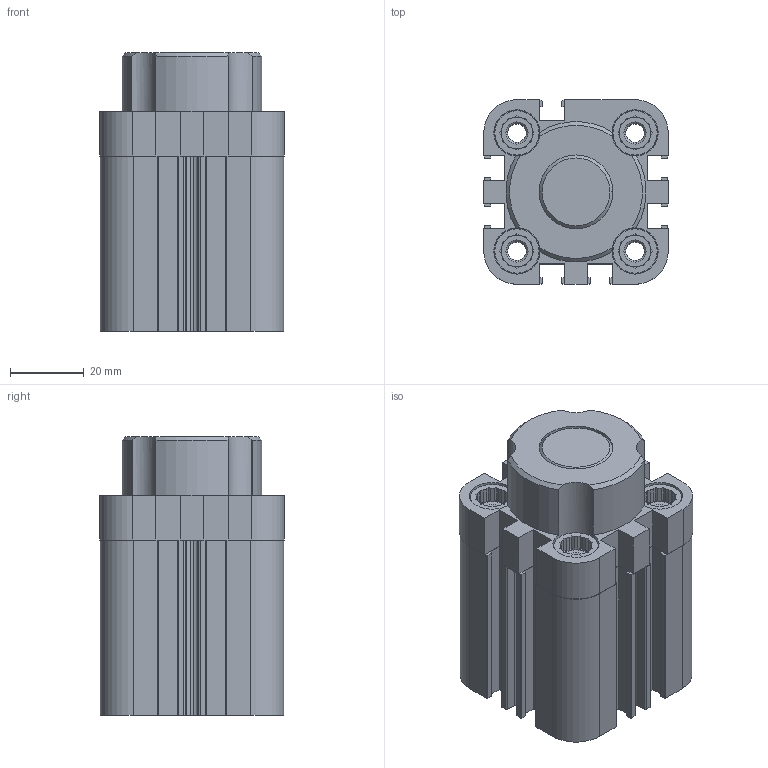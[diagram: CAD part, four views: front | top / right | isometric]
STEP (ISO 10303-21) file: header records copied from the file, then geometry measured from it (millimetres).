
FILE_DESCRIPTION((''),'2;1');
FILE_NAME('R452000681_ASM','2023-05-15T16:25:18',('THD3HC'),(''),'CREO PARAMETRIC BY PTC INC, 2020044','CREO PARAMETRIC BY PTC INC, 2020044','');
FILE_SCHEMA(('CONFIG_CONTROL_DESIGN','SHAPE_APPEARANCE_LAYERS_GROUPS'));
Length unit declared in the file: millimetre
Products named in the file (3): R452000681-A; R452000681-B; R452000681_ASM
Assembly tree (2 placements, depth 2):
  R452000681_ASM
    R452000681-A
    R452000681-B
Bounding box: 50 x 50 x 75.5 mm (x, y, z)
Volume: 127274 mm3; surface area: 45023.7 mm2
Topology: 2 solids, 6 shells, 517 faces, 1350 edges, 878 vertices
Faces by surface type: plane 316, cylinder 149, cone 52
Entity records: 20939 total; most frequent: DIRECTION 2836, CARTESIAN_POINT 2810, ORIENTED_EDGE 2700, PRESENTATION_STYLE_ASSIGNMENT 1421, STYLED_ITEM 1352, CURVE_STYLE 1350, EDGE_CURVE 1350, AXIS2_PLACEMENT_3D 976
